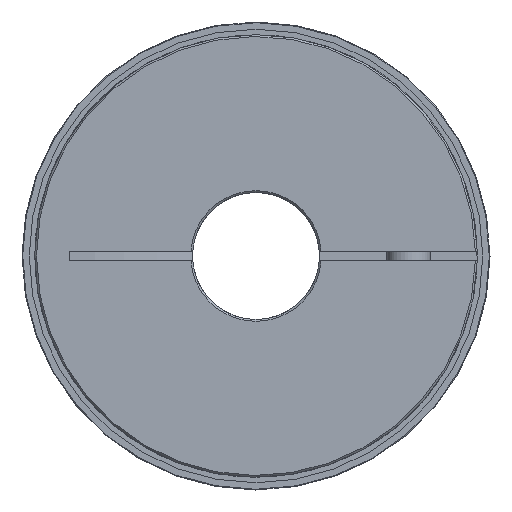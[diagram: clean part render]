
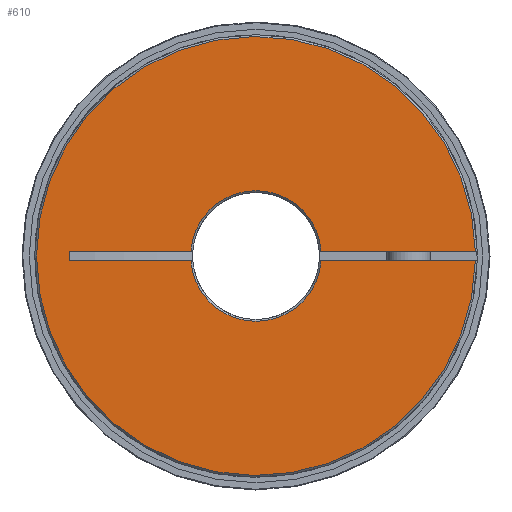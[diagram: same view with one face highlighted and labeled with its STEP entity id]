
A CAD part, left-side view. The second image highlights one B-rep face of the part: STEP entity #610.
In plain terms, the highlighted planar face has unit normal (-1, 0, 0).
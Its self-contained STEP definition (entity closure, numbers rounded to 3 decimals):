
#610 = ADVANCED_FACE( 'NONE', ( #1270 ), #1271, .F. );
#1270 = FACE_OUTER_BOUND( '', #2143, .T. );
#1271 = PLANE( '', #2144 );
#2143 = EDGE_LOOP( '', ( #3227, #3228, #3229, #3230, #3231, #3232, #3233, #3234 ) );
#2144 = AXIS2_PLACEMENT_3D( '', #3235, #3236, #3237 );
#3227 = ORIENTED_EDGE( '', *, *, #4418, .T. );
#3228 = ORIENTED_EDGE( '', *, *, #4529, .T. );
#3229 = ORIENTED_EDGE( '', *, *, #4537, .T. );
#3230 = ORIENTED_EDGE( '', *, *, #4538, .T. );
#3231 = ORIENTED_EDGE( '', *, *, #4539, .F. );
#3232 = ORIENTED_EDGE( '', *, *, #4540, .T. );
#3233 = ORIENTED_EDGE( '', *, *, #4541, .F. );
#3234 = ORIENTED_EDGE( '', *, *, #4542, .T. );
#3235 = CARTESIAN_POINT( '', ( 0., 17.5, 0. ) );
#3236 = DIRECTION( '', ( 1., 0., 0. ) );
#3237 = DIRECTION( '', ( 0., 1., 0. ) );
#4418 = EDGE_CURVE( 'NONE', #5067, #5065, #5068, .T. );
#4529 = EDGE_CURVE( 'NONE', #5065, #5237, #5238, .T. );
#4537 = EDGE_CURVE( 'NONE', #5237, #5249, #5250, .T. );
#4538 = EDGE_CURVE( 'NONE', #5249, #5251, #5252, .F. );
#4539 = EDGE_CURVE( 'NONE', #5253, #5251, #5254, .F. );
#4540 = EDGE_CURVE( 'NONE', #5253, #5255, #5256, .T. );
#4541 = EDGE_CURVE( 'NONE', #5257, #5255, #5258, .F. );
#4542 = EDGE_CURVE( 'NONE', #5257, #5067, #5259, .T. );
#5065 = VERTEX_POINT( 'NONE', #6097 );
#5067 = VERTEX_POINT( 'NONE', #6102 );
#5068 = LINE( '', #6103, #6104 );
#5237 = VERTEX_POINT( 'NONE', #6563 );
#5238 = CIRCLE( '', #6564, 18. );
#5249 = VERTEX_POINT( 'NONE', #6578 );
#5250 = LINE( '', #6579, #6580 );
#5251 = VERTEX_POINT( 'NONE', #6581 );
#5252 = CIRCLE( '', #6582, 60.5 );
#5253 = VERTEX_POINT( 'NONE', #6583 );
#5254 = LINE( '', #6584, #6585 );
#5255 = VERTEX_POINT( 'NONE', #6586 );
#5256 = CIRCLE( '', #6587, 18. );
#5257 = VERTEX_POINT( 'NONE', #6588 );
#5258 = LINE( '', #6589, #6590 );
#5259 = LINE( '', #6591, #6592 );
#6097 = CARTESIAN_POINT( '', ( 0., 17.953, 1.3 ) );
#6102 = CARTESIAN_POINT( '', ( 0., 51.446, 1.3 ) );
#6103 = CARTESIAN_POINT( '', ( 0., 17.5, 1.3 ) );
#6104 = VECTOR( '', #7392, 1000. );
#6563 = CARTESIAN_POINT( '', ( 0., -17.953, 1.3 ) );
#6564 = AXIS2_PLACEMENT_3D( '', #7545, #7546, #7547 );
#6578 = CARTESIAN_POINT( '', ( 0., -60.486, 1.3 ) );
#6579 = CARTESIAN_POINT( '', ( 0., 17.5, 1.3 ) );
#6580 = VECTOR( '', #7557, 1000. );
#6581 = CARTESIAN_POINT( '', ( 0., -60.486, -1.3 ) );
#6582 = AXIS2_PLACEMENT_3D( '', #7558, #7559, #7560 );
#6583 = CARTESIAN_POINT( '', ( 0., -17.953, -1.3 ) );
#6584 = CARTESIAN_POINT( '', ( 0., -13., -1.3 ) );
#6585 = VECTOR( '', #7561, 1000. );
#6586 = CARTESIAN_POINT( '', ( 0., 17.953, -1.3 ) );
#6587 = AXIS2_PLACEMENT_3D( '', #7562, #7563, #7564 );
#6588 = CARTESIAN_POINT( '', ( 0., 51.446, -1.3 ) );
#6589 = CARTESIAN_POINT( '', ( 0., -13., -1.3 ) );
#6590 = VECTOR( '', #7565, 1000. );
#6591 = CARTESIAN_POINT( '', ( 0., 51.446, -1.3 ) );
#6592 = VECTOR( '', #7566, 1000. );
#7392 = DIRECTION( '', ( 0., -1., 0. ) );
#7545 = CARTESIAN_POINT( '', ( 0., 0., 0. ) );
#7546 = DIRECTION( '', ( 1., 0., 0. ) );
#7547 = DIRECTION( '', ( 0., 0., -1. ) );
#7557 = DIRECTION( '', ( 0., -1., 0. ) );
#7558 = CARTESIAN_POINT( '', ( 0., 0., 0. ) );
#7559 = DIRECTION( '', ( 1., 0., 0. ) );
#7560 = DIRECTION( '', ( 0., 0., -1. ) );
#7561 = DIRECTION( '', ( 0., 1., 0. ) );
#7562 = CARTESIAN_POINT( '', ( 0., 0., 0. ) );
#7563 = DIRECTION( '', ( 1., 0., 0. ) );
#7564 = DIRECTION( '', ( 0., 0., -1. ) );
#7565 = DIRECTION( '', ( 0., 1., 0. ) );
#7566 = DIRECTION( '', ( 0., 0., 1. ) );
